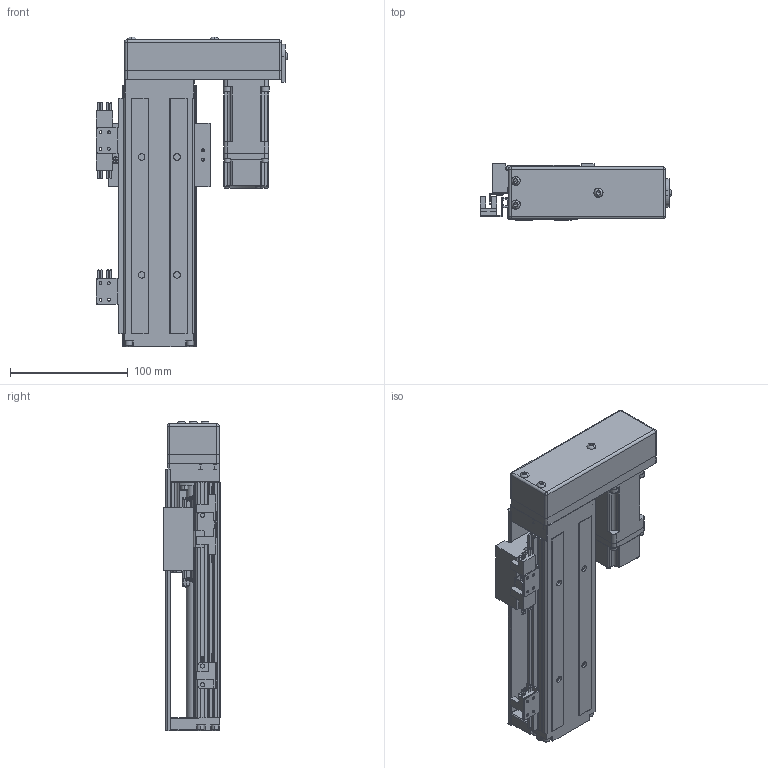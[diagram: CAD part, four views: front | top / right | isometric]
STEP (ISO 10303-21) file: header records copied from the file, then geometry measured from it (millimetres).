
FILE_DESCRIPTION (( 'STEP AP214' ), '1' );
FILE_NAME ('SFKK60-200A1-HL0C.STEP', '2022-05-03T07:54:05', ( '微软用户' ), ( '微软中国' ), 'SwSTEP 2.0', 'SolidWorks 2018', '' );
FILE_SCHEMA (( 'AUTOMOTIVE_DESIGN' ));
Length unit declared in the file: millimetre
Products named in the file (12): 带盖挡光片：KK-60-S2-D1; 蚐郲; SFKK60-H0-P10侂狟100W耜蚾; SX674嫖萇羲壽; 开关固定座：KK-674S2-F; SFKK60-LR 憤癹寢耋_200; SFKK-60-CU_200; SFKK60-A1-C; hexagon socket countersunk head screws gb_GB_FASTENER_SCREWS_HSCHS M3X8-N; 极限轨道与开关固定座组合_200; SFKK60-H0_200; SFKK60-200A1-HL0C
Assembly tree (17 placements, depth 3):
  SFKK60-200A1-HL0C
    SFKK60-H0_200
    SFKK60-A1-C
    蚐郲
    SFKK-60-CU_200
    hexagon socket countersunk head screws gb_GB_FASTENER_SCREWS_HSCHS M3X8-N  x4
    带盖挡光片：KK-60-S2-D1
    极限轨道与开关固定座组合_200
      SFKK60-LR 憤癹寢耋_200
      开关固定座：KK-674S2-F  x2
    SX674嫖萇羲壽  x3
    SFKK60-H0-P10侂狟100W耜蚾
Bounding box: 162.2 x 48 x 262.7 mm (x, y, z)
Volume: 382433.8 mm3; surface area: 250756.6 mm2
Topology: 40 solids, 69 shells, 4196 faces, 10490 edges, 6496 vertices
Faces by surface type: cylinder 1619, plane 1486, cone 883, torus 91, bspline 91, sphere 26
Entity records: 164886 total; most frequent: CARTESIAN_POINT 29321, DIRECTION 20884, ORIENTED_EDGE 19696, EDGE_CURVE 9910, AXIS2_PLACEMENT_3D 7746, VERTEX_POINT 6199, VECTOR 5392, LINE 5392
